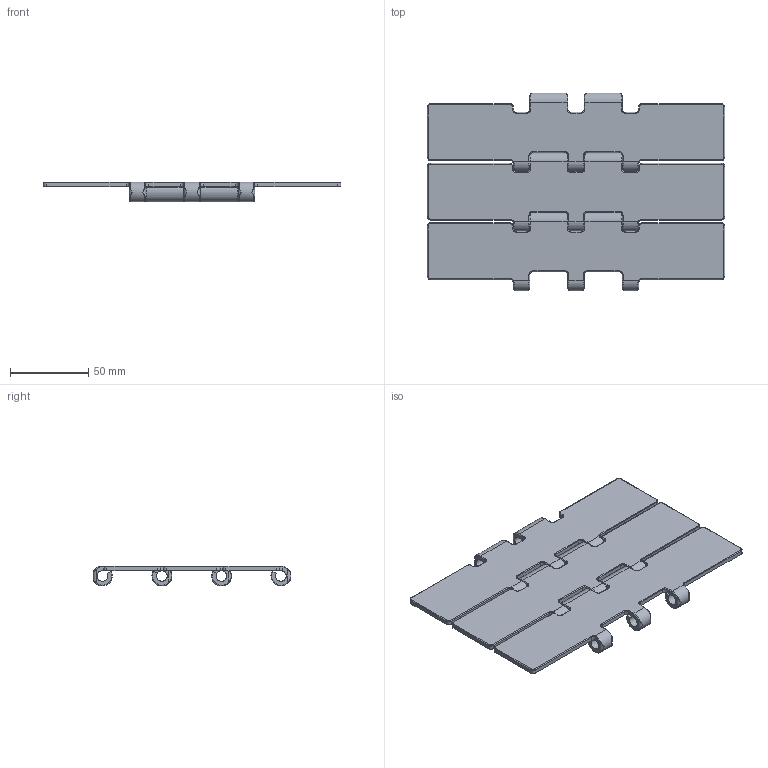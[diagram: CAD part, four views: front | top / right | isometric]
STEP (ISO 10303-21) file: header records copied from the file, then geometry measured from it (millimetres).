
FILE_DESCRIPTION(('CATIA V5 STEP Exchange'),'2;1');
FILE_NAME('C:\Users\dentellad\Desktop\TEMP\P10030107_01.stp','2017-05-04T08:14:10+00:00',('none'),('none'),'Version 5-6 Release 2012','CATIA V5 STEP AP203','none');
FILE_SCHEMA(('CONFIG_CONTROL_DESIGN'));
Length unit declared in the file: millimetre
Products named in the file (1): Part1
Bounding box: 190.39 x 126.7 x 12.8 mm (x, y, z)
Volume: 77227 mm3; surface area: 57157.6 mm2
Topology: 1 solids, 1 shells, 503 faces, 1305 edges, 732 vertices
Faces by surface type: cylinder 195, plane 128, torus 114, bspline 66
Entity records: 18295 total; most frequent: CARTESIAN_POINT 7609, ORIENTED_EDGE 2538, DIRECTION 1627, EDGE_CURVE 1269, AXIS2_PLACEMENT_3D 841, VERTEX_POINT 732, CIRCLE 548, ADVANCED_FACE 503
